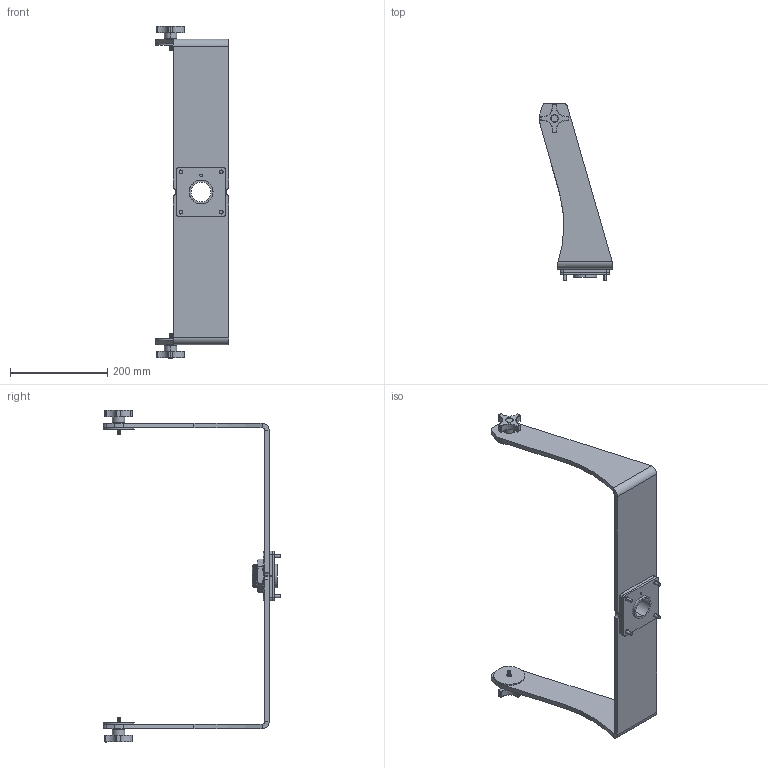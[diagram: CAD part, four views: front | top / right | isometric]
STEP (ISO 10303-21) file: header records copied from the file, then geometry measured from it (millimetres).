
FILE_DESCRIPTION (( 'STEP AP214' ), '1' );
FILE_NAME ('Pedestal and Benchtop Yoke for 23.8 inch Universal Mount Monitor, YB23.8.STEP', '2022-07-07T18:00:13', ( '' ), ( '' ), 'SwSTEP 2.0', 'SolidWorks 2020', '' );
FILE_SCHEMA (( 'AUTOMOTIVE_DESIGN' ));
Length unit declared in the file: inch
Products named in the file (12): Plate; Rubber Washer, 10177; Bushing, 30500; Nut, 30060; Knob, 30053; Pedestal and Benchtop Yoke for 23.8 inch Universal Mount Monitor, YB23.8; Bench Plate, 10105; 9157K370_STD-WALL 304-304L SS THRD ONE END PIPE NIPPLE_9157K37; Washer, 10143; All Yoke Configurations, YBxx_YK23.8; Bearing Plate, 10078; Screw, 30078_CR-FHMS 0.25-20x0.875x0.875-N
Assembly tree (17 placements, depth 3):
  Pedestal and Benchtop Yoke for 23.8 inch Universal Mount Monitor, YB23.8
    All Yoke Configurations, YBxx_YK23.8
    Bearing Plate, 10078
    Bench Plate, 10105
      Plate
      9157K370_STD-WALL 304-304L SS THRD ONE END PIPE NIPPLE_9157K37
    Screw, 30078_CR-FHMS 0.25-20x0.875x0.875-N  x4
    Washer, 10143
    Nut, 30060
    Bushing, 30500  x2
    Rubber Washer, 10177  x2
    Knob, 30053  x2
Bounding box: 151.52 x 365.2 x 682.68 mm (x, y, z)
Volume: 1323888 mm3; surface area: 370390.6 mm2
Topology: 16 solids, 16 shells, 808 faces, 1799 edges, 1020 vertices
Faces by surface type: cylinder 344, cone 239, plane 128, torus 48, sphere 40, bspline 9
Entity records: 24007 total; most frequent: CARTESIAN_POINT 12628, DIRECTION 2319, ORIENTED_EDGE 2230, EDGE_CURVE 1115, AXIS2_PLACEMENT_3D 932, VERTEX_POINT 653, EDGE_LOOP 532, FACE_OUTER_BOUND 488
